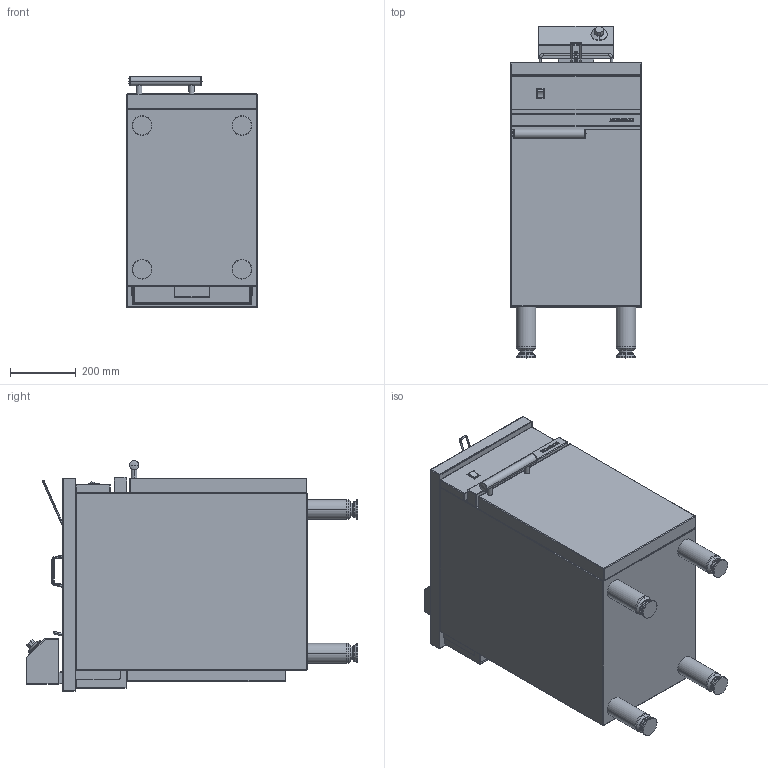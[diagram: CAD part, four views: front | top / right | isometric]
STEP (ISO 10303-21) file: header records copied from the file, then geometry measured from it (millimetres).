
FILE_DESCRIPTION((''),'2;1');
FILE_NAME('CME416FR_CPM_D_EXPORT_STEP_ASM','2017-11-22T',('r.avril'),(''),'PRO/ENGINEER BY PARAMETRIC TECHNOLOGY CORPORATION, 2014200','PRO/ENGINEER BY PARAMETRIC TECHNOLOGY CORPORATION, 2014200','');
FILE_SCHEMA(('AP203_CONFIGURATION_CONTROLLED_3D_DESIGN_OF_MECHANICAL_PARTS_AND_ASSEMBLIES_MIM_LF { 1 0 10303 403 2 1 2 }'));
Length unit declared in the file: millimetre
Products named in the file (10): MODULES_AMB_400_EXPORT_STEP; TABLE_CME_415_416_FR; MANETTE_FRITEUSE_EXPORT_STEP; 65101004; 65101004_MANETTE_VANNE; 65101004_ASM; TABLE_CME_415_416_FR_ASM; BASCULEUR_AMB_EXPORT_DXF; PORTE_MODULE_AMB_400D; CME416FR_CPM_D_EXPORT_STEP_ASM
Assembly tree (9 placements, depth 4):
  CME416FR_CPM_D_EXPORT_STEP_ASM
    MODULES_AMB_400_EXPORT_STEP
    TABLE_CME_415_416_FR_ASM
      TABLE_CME_415_416_FR
      MANETTE_FRITEUSE_EXPORT_STEP
      65101004_ASM
        65101004
        65101004_MANETTE_VANNE
    BASCULEUR_AMB_EXPORT_DXF
    PORTE_MODULE_AMB_400D
Bounding box: 400 x 1011.5 x 703 mm (x, y, z)
Volume: 60261734.9 mm3; surface area: 5319070.7 mm2
Topology: 18 solids, 36 shells, 818 faces, 2494 edges, 1994 vertices
Faces by surface type: cylinder 330, plane 262, sphere 66, torus 66, bspline 58, cone 36
Entity records: 37731 total; most frequent: CARTESIAN_POINT 10617, DIRECTION 4527, ORIENTED_EDGE 4002, EDGE_CURVE 2226, AXIS2_PLACEMENT_3D 1656, VERTEX_POINT 1494, VECTOR 1185, LINE 1185
